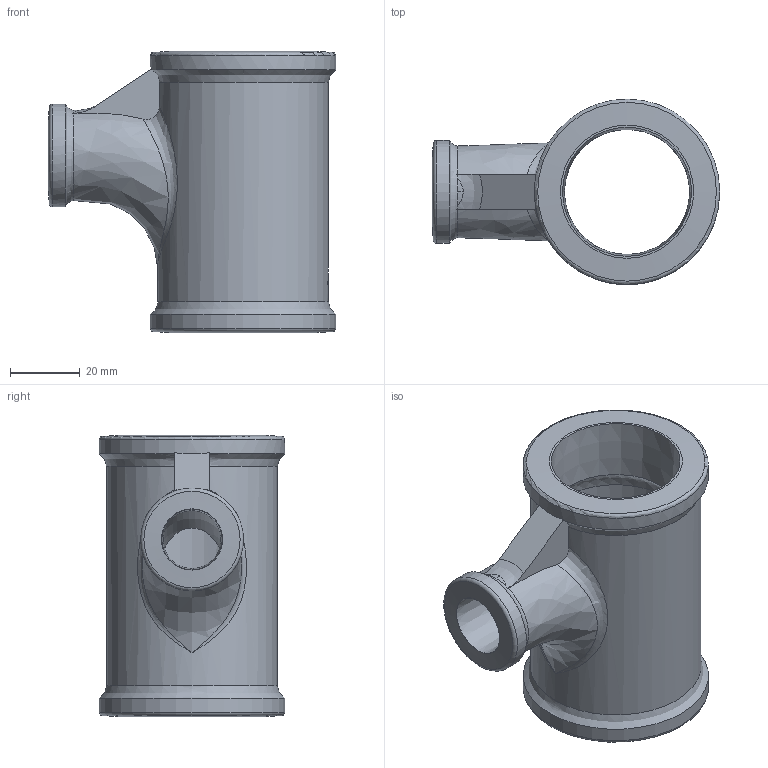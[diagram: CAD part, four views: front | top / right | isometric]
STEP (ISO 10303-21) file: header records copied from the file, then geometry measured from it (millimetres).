
FILE_DESCRIPTION((''),'2;1');
FILE_NAME('P:\Fastrack\53909_CRANE\Crane\Fig.199 Pitcher Tee\New 1.25 inch\199-1.25x0.50.stp','2009-09-17T10:37:59',('btaylor'),(''),'Autodesk Inventor 2008','Autodesk Inventor 2008','');
FILE_SCHEMA(('AUTOMOTIVE_DESIGN { 1 0 10303 214 1 1 1 1 }'));
Length unit declared in the file: millimetre
Products named in the file (1): 199-1.25x0.50
Bounding box: 82.65 x 53.3 x 81 mm (x, y, z)
Volume: 70148.9 mm3; surface area: 29967.7 mm2
Topology: 1 solids, 1 shells, 55 faces, 166 edges, 113 vertices
Faces by surface type: bspline 20, plane 17, cylinder 8, cone 6, torus 4
Full cylindrical faces by diameter (mm): 29.6 x1, 41.4 x1, 49.1 x1, 53.3 x2
Entity records: 4204 total; most frequent: CARTESIAN_POINT 2912, ORIENTED_EDGE 282, DIRECTION 204, EDGE_CURVE 141, VERTEX_POINT 107, AXIS2_PLACEMENT_3D 90, EDGE_LOOP 78, B_SPLINE_CURVE_WITH_KNOTS 63
